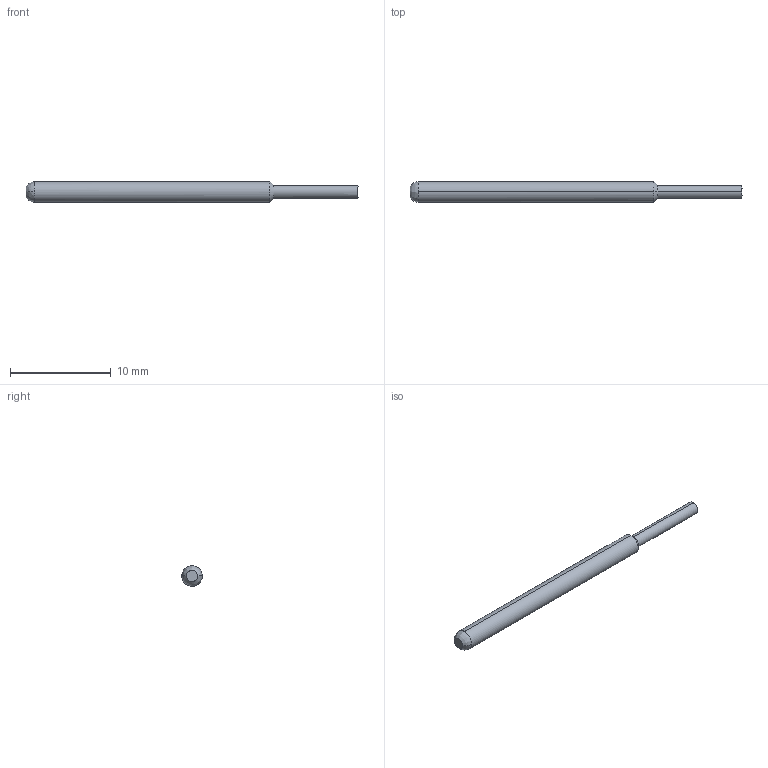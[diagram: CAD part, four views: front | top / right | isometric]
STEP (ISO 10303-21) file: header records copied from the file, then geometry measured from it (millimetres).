
FILE_DESCRIPTION (( 'STEP AP214' ), '1' );
FILE_NAME ('PA5C.STEP', '2024-09-04T13:47:36', ( '' ), ( '' ), 'SwSTEP 2.0', 'SolidWorks 2024', '' );
FILE_SCHEMA (( 'AUTOMOTIVE_DESIGN' ));
Length unit declared in the file: inch
Products named in the file (1): PA5C
Bounding box: 33.02 x 2.03 x 2.03 mm (x, y, z)
Volume: 89.5 mm3; surface area: 193.4 mm2
Topology: 1 solids, 1 shells, 10 faces, 20 edges, 12 vertices
Faces by surface type: bspline 10
Entity records: 377 total; most frequent: CARTESIAN_POINT 229, ORIENTED_EDGE 40, EDGE_CURVE 20, VERTEX_POINT 12, ADVANCED_FACE 10, FACE_OUTER_BOUND 10, B_SPLINE_CURVE_WITH_KNOTS 10, EDGE_LOOP 10
